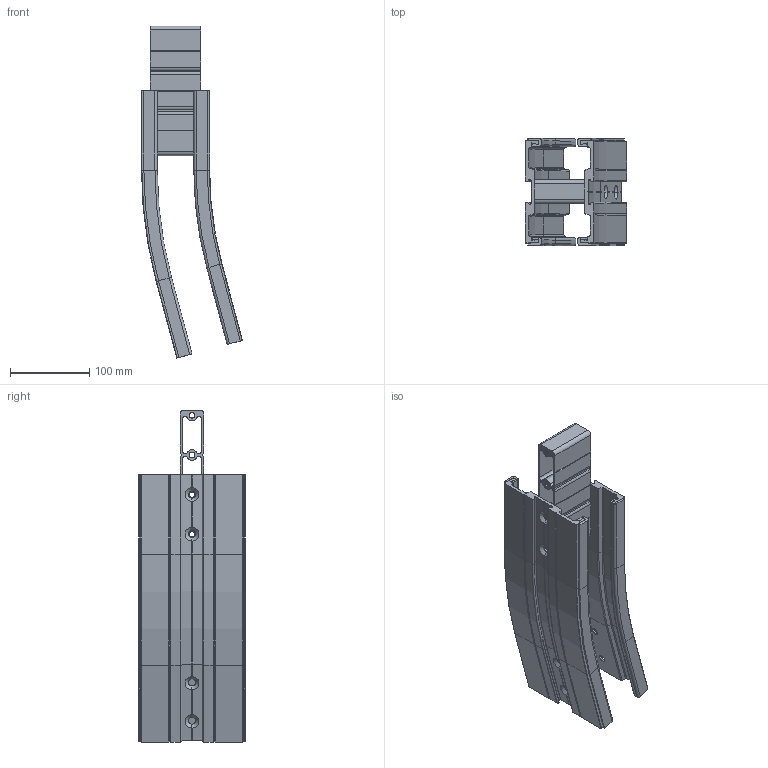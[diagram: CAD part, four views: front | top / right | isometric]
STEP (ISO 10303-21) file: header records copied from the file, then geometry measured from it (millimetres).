
FILE_DESCRIPTION (( 'STEP AP203' ), '1' );
FILE_NAME ('R2C500-15.STEP', '2008-12-02T09:29:14', ( 'faber' ), ( '' ), 'SwSTEP 2.0', 'SolidWorks 2008', '' );
FILE_SCHEMA (( 'CONFIG_CONTROL_DESIGN' ));
Length unit declared in the file: millimetre
Products named in the file (1): R2C500-15
Bounding box: 127.45 x 135 x 418.88 mm (x, y, z)
Surface area: 338389.8 mm2 (no closed solid volume)
Topology: 0 solids, 21 shells, 553 faces, 1762 edges, 1208 vertices
Faces by surface type: plane 268, cylinder 219, torus 38, cone 28
Entity records: 19363 total; most frequent: CARTESIAN_POINT 3620, DIRECTION 3454, ORIENTED_EDGE 2916, EDGE_CURVE 1762, VERTEX_POINT 1208, AXIS2_PLACEMENT_3D 1170, VECTOR 1114, LINE 1114
